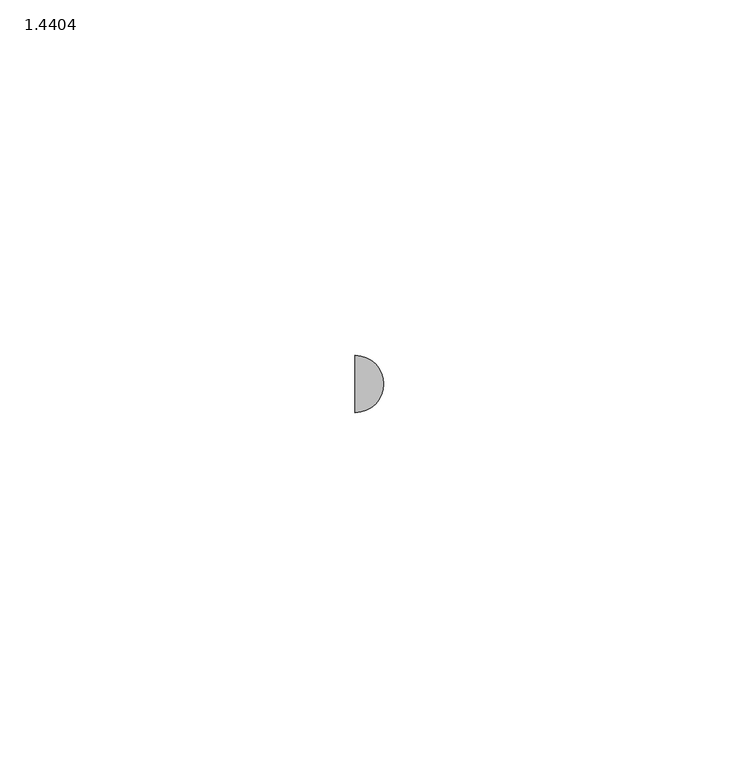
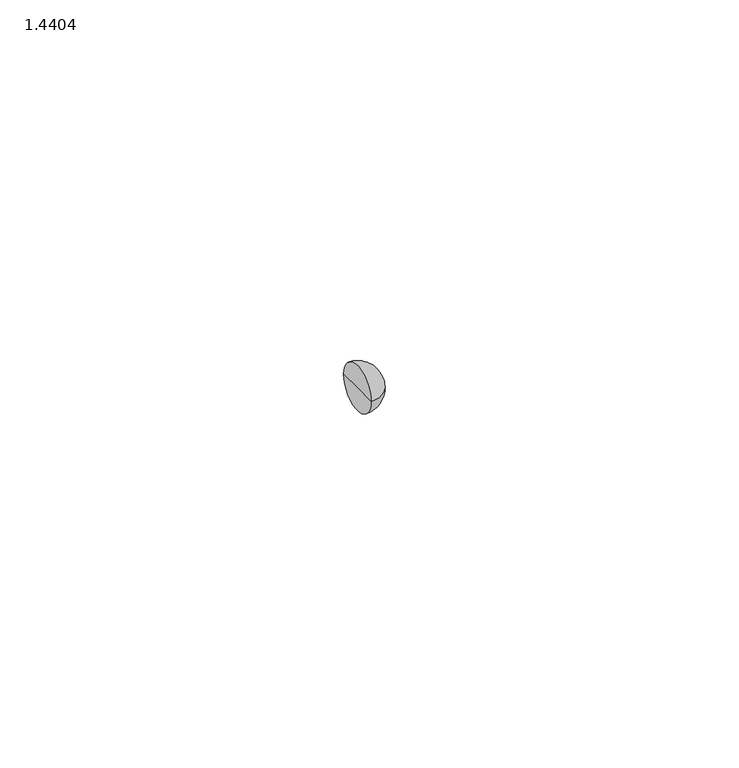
"""IFC4 building model written with IfcOpenShell, lengths in millimetres: pipe fitting geometry, PIF_ST_UN_ACO pipe multibranch_ACO : 1.4404."""

from ifc_helpers import new_model, si_unit, point, frame, origin, place, context, project, spatial, circle_curve, ellipse_curve, trimmed, source, transform, mapped, element, save
from ifc_brep_helpers import plane_surface, revolved_surface, advanced_brep


def pipe_fitting_1_4404_370fba09(model_context):
    return source(origin(), model_context, "Body", "AdvancedBrep", [
        advanced_brep(
        [(-103.0, 0.0, 0.0), (-103.0, 4.0095617, 0.0), (-103.0, -4.0095617, 0.0), (-98.9904383, 0.0, 0.0)],
        [
            (0, 1),
            (1, 2, circle_curve(frame((-103.0, 0.0, 0.0), z_axis=(-1.0, 0.0, 0.0), x_axis=(0.0, 1.0, 0.0)), 4.0095617)),
            (2, 0),
            (2, 1, circle_curve(frame((-103.0, 0.0, 0.0), z_axis=(-1.0, 0.0, 0.0), x_axis=(0.0, 1.0, 0.0)), 4.0095617)),
            (1, 3, circle_curve(frame((-103.0, 0.0, 0.0), z_axis=(0.0, 0.0, -1.0), x_axis=(1.0, 0.0, 0.0)), 4.0095617)),
            (3, 2, circle_curve(frame((-103.0, 0.0, 0.0), z_axis=(0.0, 0.0, -1.0), x_axis=(1.0, 0.0, 0.0)), 4.0095617)),
        ],
        [
            plane_surface(frame((-103.0, 0.0, 0.0), z_axis=(-1.0, 0.0, 0.0), x_axis=(0.0, 1.0, 0.0))),
            revolved_surface(trimmed(ellipse_curve(frame((-103.0, 0.0, 0.0), z_axis=(0.0, 0.0, 1.0), x_axis=(1.0, 0.0, 0.0)), 4.0095617, 4.0095617), [point((-98.9904383, 0.0, 0.0))], [point((-103.0, 4.0095617, 0.0))], True, "CARTESIAN"), (-103.0, 0.0, 0.0), (-1.0, 0.0, 0.0)),
        ],
        [
            (0, [[1, 2, 3]]),
            (0, [[-3, 4, -1]]),
            (1, [[-2, 5, 6]]),
            (1, [[-4, -6, -5]]),
        ],
    ),
    ])


if __name__ == "__main__":
    model = new_model("IFC4")
    model_context = context("Model", 3, world=origin())
    ifc_project = project(units=[si_unit("LENGTHUNIT", "METRE", prefix="MILLI")], contexts=[model_context])
    site = spatial("IfcSite", under=ifc_project)
    building = spatial("IfcBuilding", under=site)
    placement = place(None, origin())
    pipe_fitting_1_4404_shape = pipe_fitting_1_4404_370fba09(model_context)
    element("IfcPipeFitting", 1, ObjectType="PIF_ST_UN_ACO pipe multibranch_ACO : 1.4404", at=placement, inside=building, context=model_context, shape_type="MappedRepresentation", body=[
        mapped(pipe_fitting_1_4404_shape, transform((0.0, 0.0, 0.0), x_axis=(1.0, 0.0, 0.0), y_axis=(0.0, 1.0, 0.0), z_axis=(0.0, 0.0, 1.0))),
    ])
    save(model, "model.ifc")
